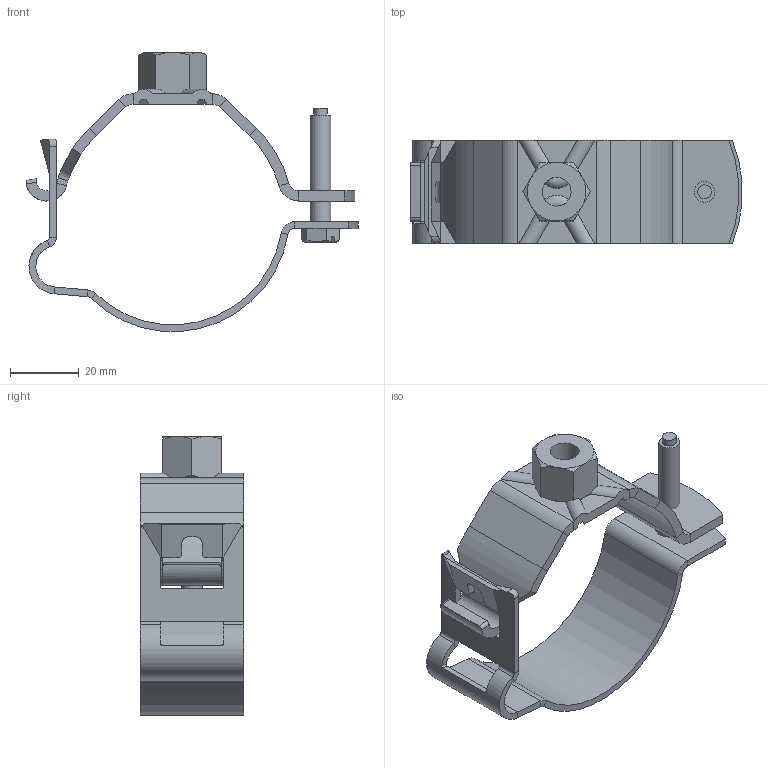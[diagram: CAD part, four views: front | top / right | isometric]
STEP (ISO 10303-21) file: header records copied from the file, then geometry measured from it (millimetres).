
FILE_DESCRIPTION(/* description */ (''),/* implementation_level */ '2;1');
FILE_NAME(/* name */ 'C:\Planerdaten\Export PLA\363.843.00.2\stp\363843.stp',/* time_stamp */ '2020-02-28T04:56:59-08:00',/* author */ ('JANAN'),/* organization */ (''),/* preprocessor_version */ 'ST-DEVELOPER v16.13',/* originating_system */ 'Autodesk Inventor 2018',/* authorisation */ '');
FILE_SCHEMA (('AUTOMOTIVE_DESIGN { 1 0 10303 214 3 1 1 }'));
Length unit declared in the file: millimetre
Products named in the file (4): Rohrschelle d56/64 M10 verstellbar; 38098948_CPP_000_00___Rohrschelle UnT St d56 verz; 38100574_CPP_000_00___Rohrschelle ObT St d56 M10 verz; 30054957_CPP_000_01___Sechskantschraube M6x35-4.8 verzinkt
Assembly tree (3 placements, depth 2):
  Rohrschelle d56/64 M10 verstellbar
    38098948_CPP_000_00___Rohrschelle UnT St d56 verz
    38100574_CPP_000_00___Rohrschelle ObT St d56 M10 verz
    30054957_CPP_000_01___Sechskantschraube M6x35-4.8 verzinkt
Bounding box: 96.54 x 30 x 81.13 mm (x, y, z)
Volume: 22380.2 mm3; surface area: 19439.3 mm2
Topology: 3 solids, 3 shells, 218 faces, 539 edges, 326 vertices
Faces by surface type: plane 136, cylinder 50, cone 22, bspline 8, torus 2
Full cylindrical faces by diameter (mm): 4 x1, 4.917 x1, 6 x1, 8.376 x1
Entity records: 6937 total; most frequent: CARTESIAN_POINT 1723, ORIENTED_EDGE 1068, DIRECTION 1063, EDGE_CURVE 534, AXIS2_PLACEMENT_3D 370, VERTEX_POINT 325, LINE 323, VECTOR 323
